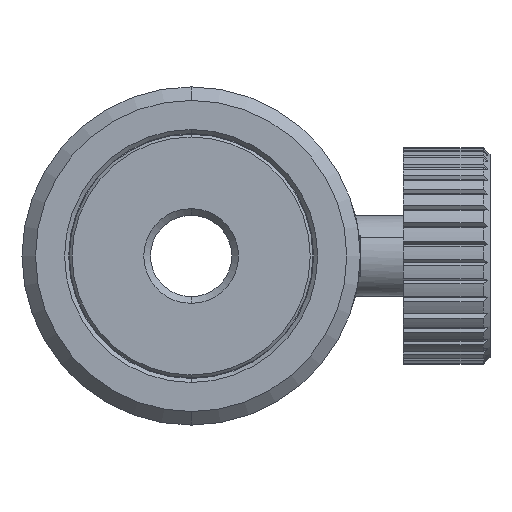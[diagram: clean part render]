
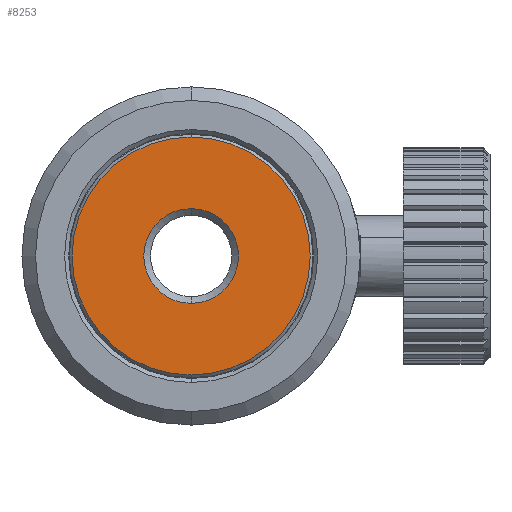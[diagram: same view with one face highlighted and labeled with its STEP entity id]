
A CAD part, front view. The second image highlights one B-rep face of the part: STEP entity #8253.
In plain terms, the highlighted planar face has unit normal (0, -1, 0).
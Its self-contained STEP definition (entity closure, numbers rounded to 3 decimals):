
#162 = CARTESIAN_POINT ( 'NONE',  ( -6.15, -6.612, 0. ) ) ;
#201 = CIRCLE ( 'NONE', #3693, 3.5 ) ;
#215 = AXIS2_PLACEMENT_3D ( 'NONE', #8074, #4595, #8755 ) ;
#339 = EDGE_LOOP ( 'NONE', ( #7559, #2476 ) ) ;
#464 = EDGE_LOOP ( 'NONE', ( #2808, #3033 ) ) ;
#708 = DIRECTION ( 'NONE',  ( 0., 0., 1. ) ) ;
#1355 = VERTEX_POINT ( 'NONE', #3541 ) ;
#1571 = EDGE_CURVE ( 'NONE', #4744, #3762, #8069, .T. ) ;
#2112 = CIRCLE ( 'NONE', #8199, 3.5 ) ;
#2273 = CARTESIAN_POINT ( 'NONE',  ( -6.15, -6.612, 0. ) ) ;
#2303 = CARTESIAN_POINT ( 'NONE',  ( -6.15, -6.612, 0. ) ) ;
#2476 = ORIENTED_EDGE ( 'NONE', *, *, #1571, .T. ) ;
#2808 = ORIENTED_EDGE ( 'NONE', *, *, #3917, .T. ) ;
#3033 = ORIENTED_EDGE ( 'NONE', *, *, #6102, .T. ) ;
#3142 = DIRECTION ( 'NONE',  ( 0., 0., 1. ) ) ;
#3173 = DIRECTION ( 'NONE',  ( 0., 0., 1. ) ) ;
#3530 = DIRECTION ( 'NONE',  ( 0., 0., 1. ) ) ;
#3541 = CARTESIAN_POINT ( 'NONE',  ( -6.15, -6.612, 3.5 ) ) ;
#3693 = AXIS2_PLACEMENT_3D ( 'NONE', #6740, #6832, #3173 ) ;
#3762 = VERTEX_POINT ( 'NONE', #8605 ) ;
#3917 = EDGE_CURVE ( 'NONE', #5745, #1355, #201, .T. ) ;
#4350 = FACE_OUTER_BOUND ( 'NONE', #339, .T. ) ;
#4467 = DIRECTION ( 'NONE',  ( 0., 1., 0. ) ) ;
#4595 = DIRECTION ( 'NONE',  ( 0., -1., 0. ) ) ;
#4661 = EDGE_CURVE ( 'NONE', #3762, #4744, #4864, .T. ) ;
#4744 = VERTEX_POINT ( 'NONE', #7384 ) ;
#4864 = CIRCLE ( 'NONE', #215, 8.8 ) ;
#5527 = FACE_BOUND ( 'NONE', #464, .T. ) ;
#5745 = VERTEX_POINT ( 'NONE', #7824 ) ;
#6102 = EDGE_CURVE ( 'NONE', #1355, #5745, #2112, .T. ) ;
#6740 = CARTESIAN_POINT ( 'NONE',  ( -6.15, -6.612, 0. ) ) ;
#6832 = DIRECTION ( 'NONE',  ( 0., 1., 0. ) ) ;
#7012 = DIRECTION ( 'NONE',  ( 0., 1., 0. ) ) ;
#7384 = CARTESIAN_POINT ( 'NONE',  ( -6.15, -6.612, -8.8 ) ) ;
#7559 = ORIENTED_EDGE ( 'NONE', *, *, #4661, .T. ) ;
#7655 = DIRECTION ( 'NONE',  ( 0., -1., 0. ) ) ;
#7824 = CARTESIAN_POINT ( 'NONE',  ( -6.15, -6.612, -3.5 ) ) ;
#7929 = AXIS2_PLACEMENT_3D ( 'NONE', #2303, #7655, #3530 ) ;
#8069 = CIRCLE ( 'NONE', #7929, 8.8 ) ;
#8074 = CARTESIAN_POINT ( 'NONE',  ( -6.15, -6.612, 0. ) ) ;
#8086 = AXIS2_PLACEMENT_3D ( 'NONE', #162, #7012, #708 ) ;
#8199 = AXIS2_PLACEMENT_3D ( 'NONE', #2273, #4467, #3142 ) ;
#8253 = ADVANCED_FACE ( 'NONE', ( #5527, #4350 ), #8285, .F. ) ;
#8285 = PLANE ( 'NONE',  #8086 ) ;
#8605 = CARTESIAN_POINT ( 'NONE',  ( -6.15, -6.612, 8.8 ) ) ;
#8755 = DIRECTION ( 'NONE',  ( 0., 0., 1. ) ) ;
